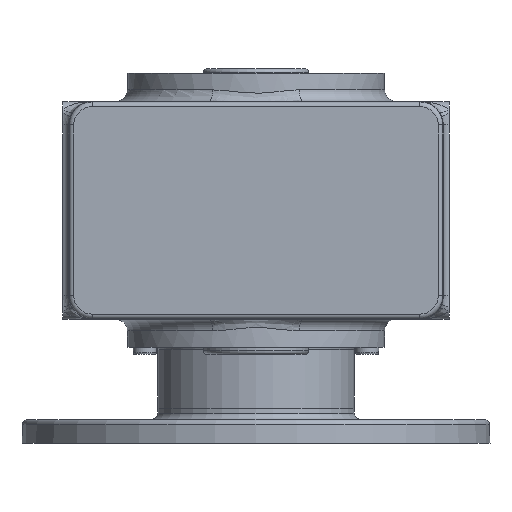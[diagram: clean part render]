
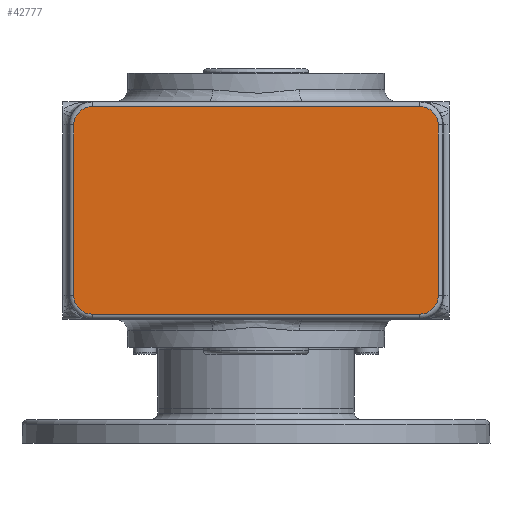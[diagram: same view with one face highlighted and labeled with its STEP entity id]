
A CAD part, front view. The second image highlights one B-rep face of the part: STEP entity #42777.
In plain terms, the highlighted planar face has unit normal (0, -1, 0).
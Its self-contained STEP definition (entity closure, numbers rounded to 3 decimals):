
#5804 = CARTESIAN_POINT ( 'NONE',  ( -70., -74.5, 2.14 ) ) ;
#5805 = CARTESIAN_POINT ( 'NONE',  ( -70., -74.5, 90.86 ) ) ;
#5806 = DIRECTION ( 'NONE',  ( -1., 0., 0. ) ) ;
#5807 = VECTOR ( 'NONE', #5806, 1000. ) ;
#5808 = CARTESIAN_POINT ( 'NONE',  ( -70., -74.5, 90.86 ) ) ;
#5809 = LINE ( 'NONE', #5808, #5807 ) ;
#5810 = CARTESIAN_POINT ( 'NONE',  ( -77.86, -74.5, 10. ) ) ;
#5811 = DIRECTION ( 'NONE',  ( 0., 0., -1. ) ) ;
#5812 = DIRECTION ( 'NONE',  ( 0., -1., 0. ) ) ;
#5813 = CARTESIAN_POINT ( 'NONE',  ( -70., -74.5, 10. ) ) ;
#5814 = AXIS2_PLACEMENT_3D ( 'NONE', #5813, #5812, #5811 ) ;
#5815 = CIRCLE ( 'NONE', #5814, 7.86 ) ;
#5816 = DIRECTION ( 'NONE',  ( 0., 0., -1. ) ) ;
#5817 = DIRECTION ( 'NONE',  ( 0., -1., 0. ) ) ;
#5818 = CARTESIAN_POINT ( 'NONE',  ( 70., -74.5, 83. ) ) ;
#5819 = AXIS2_PLACEMENT_3D ( 'NONE', #5818, #5817, #5816 ) ;
#5820 = CIRCLE ( 'NONE', #5819, 7.86 ) ;
#5822 = CARTESIAN_POINT ( 'NONE',  ( -77.86, -74.5, 83. ) ) ;
#5836 = DIRECTION ( 'NONE',  ( 0., 0., -1. ) ) ;
#5837 = VECTOR ( 'NONE', #5836, 1000. ) ;
#5838 = CARTESIAN_POINT ( 'NONE',  ( -77.86, -74.5, 10. ) ) ;
#5843 = LINE ( 'NONE', #5838, #5837 ) ;
#5846 = DIRECTION ( 'NONE',  ( 0., 0., -1. ) ) ;
#5847 = DIRECTION ( 'NONE',  ( 0., -1., 0. ) ) ;
#5848 = CARTESIAN_POINT ( 'NONE',  ( 70., -74.5, 10. ) ) ;
#5849 = AXIS2_PLACEMENT_3D ( 'NONE', #5848, #5847, #5846 ) ;
#5850 = CIRCLE ( 'NONE', #5849, 7.86 ) ;
#5851 = CARTESIAN_POINT ( 'NONE',  ( 70., -74.5, 90.86 ) ) ;
#5852 = DIRECTION ( 'NONE',  ( 0., 0., -1. ) ) ;
#5853 = DIRECTION ( 'NONE',  ( 0., -1., 0. ) ) ;
#5854 = CARTESIAN_POINT ( 'NONE',  ( -70., -74.5, 83. ) ) ;
#5855 = AXIS2_PLACEMENT_3D ( 'NONE', #5854, #5853, #5852 ) ;
#5856 = CIRCLE ( 'NONE', #5855, 7.86 ) ;
#5857 = CARTESIAN_POINT ( 'NONE',  ( 70., -74.5, 2.14 ) ) ;
#5858 = DIRECTION ( 'NONE',  ( 1., 0., 0. ) ) ;
#5859 = VECTOR ( 'NONE', #5858, 1000. ) ;
#5860 = CARTESIAN_POINT ( 'NONE',  ( 70., -74.5, 2.14 ) ) ;
#5861 = LINE ( 'NONE', #5860, #5859 ) ;
#32678 = VERTEX_POINT ( 'NONE', #5822 ) ;
#32679 = ORIENTED_EDGE ( 'NONE', *, *, #32691, .T. ) ;
#32682 = EDGE_CURVE ( 'NONE', #42751, #32696, #5820, .T. ) ;
#32683 = ORIENTED_EDGE ( 'NONE', *, *, #32688, .T. ) ;
#32684 = EDGE_CURVE ( 'NONE', #32686, #32690, #5815, .T. ) ;
#32685 = ORIENTED_EDGE ( 'NONE', *, *, #32682, .T. ) ;
#32686 = VERTEX_POINT ( 'NONE', #5810 ) ;
#32687 = ORIENTED_EDGE ( 'NONE', *, *, #32701, .T. ) ;
#32688 = EDGE_CURVE ( 'NONE', #32696, #32689, #5809, .T. ) ;
#32689 = VERTEX_POINT ( 'NONE', #5805 ) ;
#32690 = VERTEX_POINT ( 'NONE', #5804 ) ;
#32691 = EDGE_CURVE ( 'NONE', #32690, #32692, #5861, .T. ) ;
#32692 = VERTEX_POINT ( 'NONE', #5857 ) ;
#32693 = EDGE_CURVE ( 'NONE', #32689, #32678, #5856, .T. ) ;
#32694 = ORIENTED_EDGE ( 'NONE', *, *, #32684, .T. ) ;
#32695 = ORIENTED_EDGE ( 'NONE', *, *, #32693, .T. ) ;
#32696 = VERTEX_POINT ( 'NONE', #5851 ) ;
#32697 = EDGE_CURVE ( 'NONE', #32692, #42778, #5850, .T. ) ;
#32698 = ORIENTED_EDGE ( 'NONE', *, *, #32697, .T. ) ;
#32701 = EDGE_CURVE ( 'NONE', #32678, #32686, #5843, .T. ) ;
#42749 = ORIENTED_EDGE ( 'NONE', *, *, #42750, .T. ) ;
#42750 = EDGE_CURVE ( 'NONE', #42778, #42751, #76055, .T. ) ;
#42751 = VERTEX_POINT ( 'NONE', #76120 ) ;
#42777 = ADVANCED_FACE ( 'NONE', ( #76117 ), #76112, .T. ) ;
#42778 = VERTEX_POINT ( 'NONE', #76107 ) ;
#42851 = EDGE_LOOP ( 'NONE', ( #42749, #32685, #32683, #32695, #32687, #32694, #32679, #32698 ) ) ;
#76053 = VECTOR ( 'NONE', #76121, 1000. ) ;
#76054 = CARTESIAN_POINT ( 'NONE',  ( 77.86, -74.5, 83. ) ) ;
#76055 = LINE ( 'NONE', #76054, #76053 ) ;
#76107 = CARTESIAN_POINT ( 'NONE',  ( 77.86, -74.5, 10. ) ) ;
#76108 = DIRECTION ( 'NONE',  ( 0., 0., -1. ) ) ;
#76109 = DIRECTION ( 'NONE',  ( 0., -1., 0. ) ) ;
#76110 = CARTESIAN_POINT ( 'NONE',  ( 70., -74.5, 10. ) ) ;
#76111 = AXIS2_PLACEMENT_3D ( 'NONE', #76110, #76109, #76108 ) ;
#76112 = PLANE ( 'NONE',  #76111 ) ;
#76117 = FACE_OUTER_BOUND ( 'NONE', #42851, .T. ) ;
#76120 = CARTESIAN_POINT ( 'NONE',  ( 77.86, -74.5, 83. ) ) ;
#76121 = DIRECTION ( 'NONE',  ( 0., 0., 1. ) ) ;
